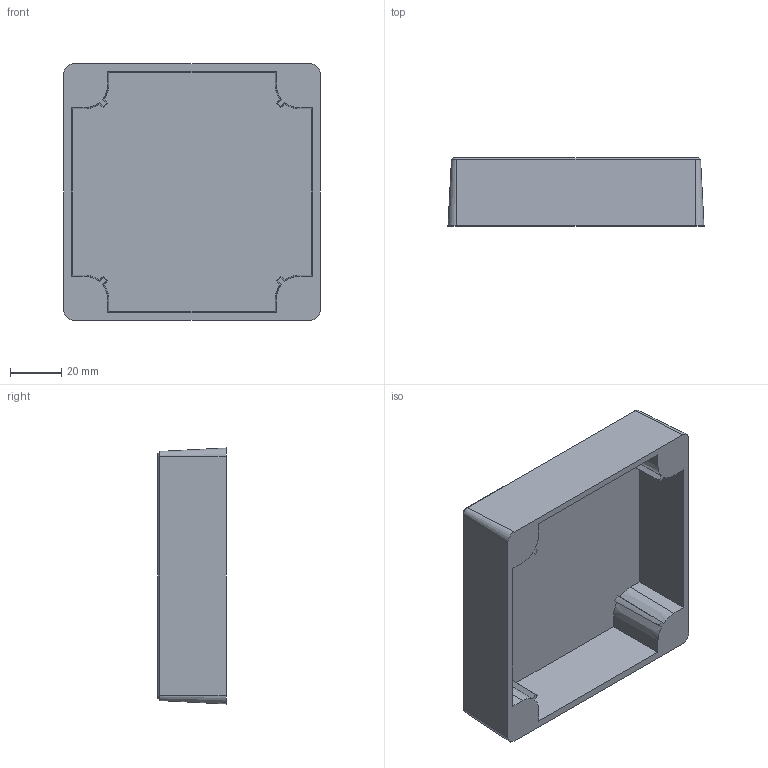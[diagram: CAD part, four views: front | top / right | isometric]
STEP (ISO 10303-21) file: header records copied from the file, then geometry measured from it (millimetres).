
FILE_DESCRIPTION (( 'STEP AP203' ), '1' );
FILE_NAME ('FIBOX_MNX9525C.STEP', '2005-06-30T09:10:14', ( ' ' ), ( ' ' ), 'SwSTEP 2.0', 'SolidWorks 2005143', '' );
FILE_SCHEMA (( 'CONFIG_CONTROL_DESIGN' ));
Length unit declared in the file: millimetre
Products named in the file (1): FIBOX_MNX9525C
Bounding box: 100 x 26.6 x 100 mm (x, y, z)
Volume: 57282.4 mm3; surface area: 40192.2 mm2
Topology: 1 solids, 1 shells, 72 faces, 184 edges, 120 vertices
Faces by surface type: plane 40, cone 20, cylinder 12
Entity records: 2277 total; most frequent: CARTESIAN_POINT 425, DIRECTION 374, ORIENTED_EDGE 368, EDGE_CURVE 184, AXIS2_PLACEMENT_3D 133, VERTEX_POINT 120, VECTOR 108, LINE 108
